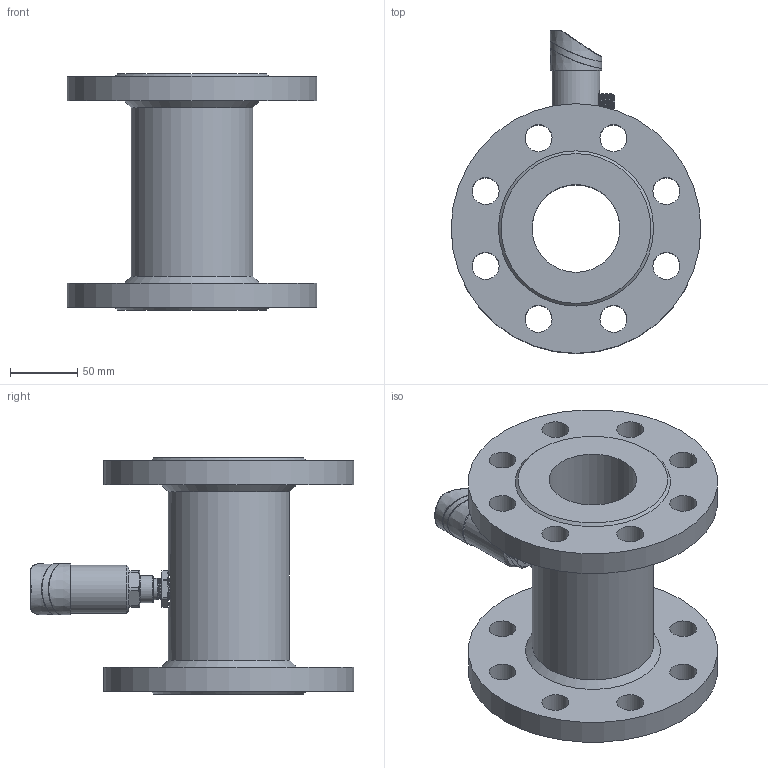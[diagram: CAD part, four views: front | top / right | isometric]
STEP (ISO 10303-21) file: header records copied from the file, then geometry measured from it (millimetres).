
FILE_DESCRIPTION( (''), '2;1');
FILE_NAME( 'QTKE_DN65_flange.step', '2024-10-14T15:04:36+08:00', (''), (''), '', '', '');
FILE_SCHEMA (('AUTOMOTIVE_DESIGN { 1 0 10303 214 3 1 1 1 }'));
Length unit declared in the file: millimetre
Products named in the file (1): QTKE DN65_flange
Bounding box: 185 x 239.5 x 175 mm (x, y, z)
Volume: 1265768.9 mm3; surface area: 217282.5 mm2
Topology: 5 solids, 6 shells, 731 faces, 1908 edges, 1250 vertices
Faces by surface type: plane 267, cylinder 147, extrusion 141, cone 73, bspline 60, torus 32, sphere 11
Full cylindrical faces by diameter (mm): 1.689 x1, 2.7 x3, 12 x1, 15.9 x1, 16.5 x2, 20 x17, 23 x3, 26 x5, 35.5 x1, 37.001 x1, 65 x1, 90 x1, 185 x2
Entity records: 33065 total; most frequent: CARTESIAN_POINT 14849, ORIENTED_EDGE 3584, DIRECTION 2875, EDGE_CURVE 1792, VERTEX_POINT 1208, AXIS2_PLACEMENT_3D 962, VECTOR 951, EDGE_LOOP 904
